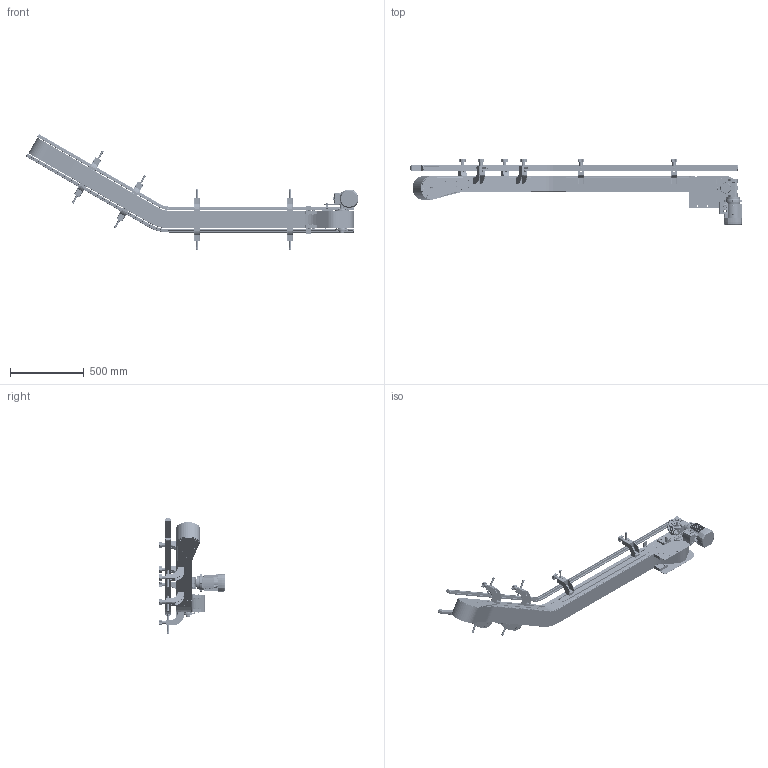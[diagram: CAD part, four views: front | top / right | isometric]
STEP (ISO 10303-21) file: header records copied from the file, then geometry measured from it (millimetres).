
FILE_DESCRIPTION (( 'STEP AP203' ), '1' );
FILE_NAME ('NASTRO_CATENA.step', '2026-06-04T07:37:28', ( 'Utente Windows' ), ( '' ), 'SwSTEP 2.0', 'SolidWorks 2024', '' );
FILE_SCHEMA (( 'CONFIG_CONTROL_DESIGN' ));
Length unit declared in the file: millimetre
Products named in the file (64): VITI TE UNI 5739_M8x20 UNI 5739; 2000.450.436_2000.1200.490; 2000.001.001; VITI TCEI UNI 5931 INOX_M6x30 UNI 5931 INOX; GRANI A PUNTA CONICA UNI 5927 INOX_M8x14 UNI 5927 INOX; 084.802.027; 084.712.002; CHIAVETTE_A 8x7x70 UNI 6604-69; 2000.450.003; 084.312.006; 2000.001.207-2; K450_30°_S_P; SBPF205; CATENA_LDX; 084.302.000 DADI ALUSIC 13x13-1_084.302.008; 2000.450.431; GRANI A PUNTA CONICA UNI 5927_M8x16 UNI 5927; 2000.450.101-1; K450_R_P; K450_1_Default<A macchina>; 2000.450.005_Default<A macchina>; VITI TE UNI 5739 INOX_M6x20 UNI 5739 INOX; 2000.450.103-2; 2000.882.750; VITI TE UNI 5739 INOX_M8x16 UNI 5739 INOX; 2000.001.006-2; 084.711.005; 2000.001.402; 2000.001.208-1; RONDELLE FASCIA LARGA UNI 6593 INOX_8.4x32 UNI 6593 INOX; 2000.001.206-2; RONDELLE FASCIA LARGA UNI 6593 INOX_8.4x24 UNI 6593 INOX; 084.711.004; CH05P_DX; K450_7_Default<A macchina>; VITI TE UNI 5739 INOX_M6x30 UNI 5739 INOX; 2000.450.002; VITI TSEI UNI 5933 INOX_0620UNI5933A2; VITI TE UNI 5739 INOX_M8x20 UNI 5739 INOX; PU008.012.025N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
Assembly tree (182 placements, depth 3):
  NASTRO_CATENA
    K450_1_Default<A macchina>
    K450_7_Default<A macchina>
    K450_DIR_49_P_DX_MOTORE A DESTRA
      084.802.027
      2000.001.006-2  x2
      2000.001.001  x2
      2000.001.004-3
      2000.001.003-3
      2000.001.011
      2000.450.101-1
      2000.450.001  x2
      2000.450.103-2
      2000.450.104-2
      2000.450.002  x2
      084.808.004
      PU008.012.025N
      CHIAVETTE_A 8x7x70 UNI 6604-69
      CHIAVETTE_A 8x7x50 UNI 6604-69
      SBPF205  x2
      663151_NS880T12R25
      VITI TSEI UNI 5933 INOX_0410UNI5933A2  x8
      GRANI A PUNTA CONICA UNI 5927_M8x16 UNI 5927  x8
      VITI TCEI UNI 5931 INOX_M6x30 UNI 5931 INOX  x2
      VITI TE UNI 5739 INOX_M8x20 UNI 5739 INOX
      RONDELLE FASCIA LARGA UNI 6593 INOX_8.4x32 UNI 6593 INOX
      GRANI A PUNTA PIATTA UNI 5923_M8x20 UNI 5923
      RONDELLE FASCIA LARGA UNI 6593 INOX_8.4x24 UNI 6593 INOX
      VITI TE UNI 5739 INOX_M8x16 UNI 5739 INOX  x7
      DADI ESAGONALI AUTOBLOCCANTI UNI 7473 INOX_M6 UNI 7473 INOX  x4
      084.312.006  x6
      VITI TE UNI 5739 INOX_M6x20 UNI 5739 INOX  x6
      VITI TE UNI 5739 INOX_M6x30 UNI 5739 INOX  x4
      VITI TE UNI 5739 INOX_M6x12 UNI 5739 INOX  x4
    K450_30°_S_P
      2000.001.402  x4
      2000.450.005_Default<A macchina>  x2
      2000.450.436_2000.1200.490  x2
      2000.450.431
      2000.450.432
      VITI TSEI UNI 5933 INOX_0620UNI5933A2  x8
      VITI TSEI UNI 5933 INOX_0820UNI5933A2  x8
      084.302.000 DADI ALUSIC 13x13-1_084.302.008  x8
    K450_R_P
      2000.001.206-2
      2000.001.207-2
      2000.450.201-1S
      2000.001.208-1
      2000.001.209-1
      2000.450.003  x2
      2000.001.001  x2
      2000.450.001  x2
      2000.325.206-1
      PROFILO POLIZENE LARGO  x2
      VITI TSEI UNI 5933 INOX_0620UNI5933A2  x8
      VITI TSEI UNI 5933 INOX_0410UNI5933A2  x14
      VITI TSEI UNI 5933 INOX_0820UNI5933A2  x2
      GRANI A PUNTA CONICA UNI 5927 INOX_M8x14 UNI 5927 INOX  x8
      25UNI7435  x2
    SPONDA_L_DX_Default<A macchina>
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Bounding box: 2251.65 x 452.8 x 785.02 mm (x, y, z)
Volume: 18833287.4 mm3; surface area: 7496750.3 mm2
Topology: 213 solids, 222 shells, 8456 faces, 21094 edges, 13114 vertices
Faces by surface type: plane 3641, cylinder 3025, cone 999, bspline 414, torus 329, sphere 48
Entity records: 165913 total; most frequent: CARTESIAN_POINT 47807, DIRECTION 22935, ORIENTED_EDGE 22518, EDGE_CURVE 11270, AXIS2_PLACEMENT_3D 8453, VERTEX_POINT 7040, VECTOR 6029, LINE 6029
